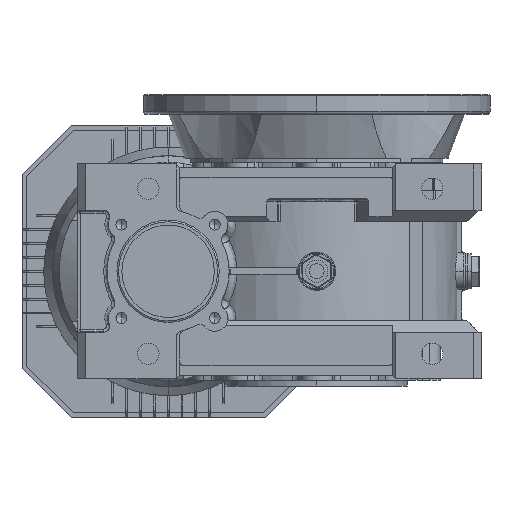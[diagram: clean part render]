
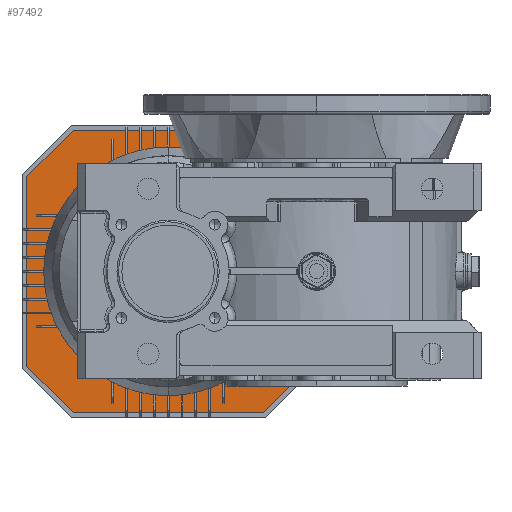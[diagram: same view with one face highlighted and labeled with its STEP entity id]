
A CAD part, left-side view. The second image highlights one B-rep face of the part: STEP entity #97492.
In plain terms, the highlighted planar face has unit normal (-1, 0, 0).
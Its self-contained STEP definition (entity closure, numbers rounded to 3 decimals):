
#89536=CARTESIAN_POINT('',(267.4,0.,-57.2));
#89537=VERTEX_POINT('',#89536);
#89553=CARTESIAN_POINT('',(267.4,0.,57.2));
#89554=VERTEX_POINT('',#89553);
#89561=CARTESIAN_POINT('',(267.4,0.,0.));
#89562=DIRECTION('',(-1.0,0.0,0.0));
#89563=DIRECTION('',(0.0,0.0,-1.0));
#89564=AXIS2_PLACEMENT_3D('',#89561,#89562,#89563);
#89565=CIRCLE('',#89564,57.2);
#89566=EDGE_CURVE('',#89554,#89537,#89565,.T.);
#96007=CARTESIAN_POINT('',(267.4,0.,0.));
#96008=DIRECTION('',(-1.0,0.0,0.0));
#96009=DIRECTION('',(0.0,0.0,-1.0));
#96010=AXIS2_PLACEMENT_3D('',#96007,#96008,#96009);
#96011=CIRCLE('',#96010,57.2);
#96012=EDGE_CURVE('',#89537,#89554,#96011,.T.);
#96030=CARTESIAN_POINT('',(267.4,-57.559,85.5));
#96031=VERTEX_POINT('',#96030);
#96032=CARTESIAN_POINT('',(267.4,57.559,85.5));
#96033=VERTEX_POINT('',#96032);
#96034=CARTESIAN_POINT('',(267.4,-57.559,85.5));
#96035=DIRECTION('',(0.0,1.0,0.0));
#96036=VECTOR('',#96035,115.118);
#96037=LINE('',#96034,#96036);
#96038=EDGE_CURVE('',#96031,#96033,#96037,.T.);
#96070=CARTESIAN_POINT('',(267.4,85.5,57.559));
#96071=VERTEX_POINT('',#96070);
#96072=CARTESIAN_POINT('',(267.4,57.559,85.5));
#96073=DIRECTION('',(0.0,0.707,-0.707));
#96074=VECTOR('',#96073,39.515);
#96075=LINE('',#96072,#96074);
#96076=EDGE_CURVE('',#96033,#96071,#96075,.T.);
#96101=CARTESIAN_POINT('',(267.4,85.5,-57.559));
#96102=VERTEX_POINT('',#96101);
#96103=CARTESIAN_POINT('',(267.4,85.5,57.559));
#96104=DIRECTION('',(0.0,0.0,-1.0));
#96105=VECTOR('',#96104,115.118);
#96106=LINE('',#96103,#96105);
#96107=EDGE_CURVE('',#96071,#96102,#96106,.T.);
#96132=CARTESIAN_POINT('',(267.4,57.559,-85.5));
#96133=VERTEX_POINT('',#96132);
#96134=CARTESIAN_POINT('',(267.4,85.5,-57.559));
#96135=DIRECTION('',(0.0,-0.707,-0.707));
#96136=VECTOR('',#96135,39.515);
#96137=LINE('',#96134,#96136);
#96138=EDGE_CURVE('',#96102,#96133,#96137,.T.);
#96163=CARTESIAN_POINT('',(267.4,-57.559,-85.5));
#96164=VERTEX_POINT('',#96163);
#96165=CARTESIAN_POINT('',(267.4,57.559,-85.5));
#96166=DIRECTION('',(0.0,-1.0,0.0));
#96167=VECTOR('',#96166,115.118);
#96168=LINE('',#96165,#96167);
#96169=EDGE_CURVE('',#96133,#96164,#96168,.T.);
#96194=CARTESIAN_POINT('',(267.4,-85.5,-57.559));
#96195=VERTEX_POINT('',#96194);
#96196=CARTESIAN_POINT('',(267.4,-57.559,-85.5));
#96197=DIRECTION('',(0.0,-0.707,0.707));
#96198=VECTOR('',#96197,39.515);
#96199=LINE('',#96196,#96198);
#96200=EDGE_CURVE('',#96164,#96195,#96199,.T.);
#96225=CARTESIAN_POINT('',(267.4,-85.5,57.559));
#96226=VERTEX_POINT('',#96225);
#96227=CARTESIAN_POINT('',(267.4,-85.5,-57.559));
#96228=DIRECTION('',(0.0,0.0,1.0));
#96229=VECTOR('',#96228,115.118);
#96230=LINE('',#96227,#96229);
#96231=EDGE_CURVE('',#96195,#96226,#96230,.T.);
#96256=CARTESIAN_POINT('',(267.4,-85.5,57.559));
#96257=DIRECTION('',(0.0,0.707,0.707));
#96258=VECTOR('',#96257,39.515);
#96259=LINE('',#96256,#96258);
#96260=EDGE_CURVE('',#96226,#96031,#96259,.T.);
#97473=CARTESIAN_POINT('',(267.4,0.,0.));
#97474=DIRECTION('',(1.0,0.0,0.0));
#97475=DIRECTION('',(0.0,0.0,-1.0));
#97476=AXIS2_PLACEMENT_3D('',#97473,#97474,#97475);
#97477=PLANE('',#97476);
#97478=ORIENTED_EDGE('',*,*,#96038,.T.);
#97479=ORIENTED_EDGE('',*,*,#96076,.T.);
#97480=ORIENTED_EDGE('',*,*,#96107,.T.);
#97481=ORIENTED_EDGE('',*,*,#96138,.T.);
#97482=ORIENTED_EDGE('',*,*,#96169,.T.);
#97483=ORIENTED_EDGE('',*,*,#96200,.T.);
#97484=ORIENTED_EDGE('',*,*,#96231,.T.);
#97485=ORIENTED_EDGE('',*,*,#96260,.T.);
#97486=EDGE_LOOP('',(#97478,#97479,#97480,#97481,#97482,#97483,#97484,#97485));
#97487=FACE_OUTER_BOUND('',#97486,.T.);
#97488=ORIENTED_EDGE('',*,*,#89566,.F.);
#97489=ORIENTED_EDGE('',*,*,#96012,.F.);
#97490=EDGE_LOOP('',(#97488,#97489));
#97491=FACE_BOUND('',#97490,.T.);
#97492=ADVANCED_FACE('',(#97487,#97491),#97477,.F.);
